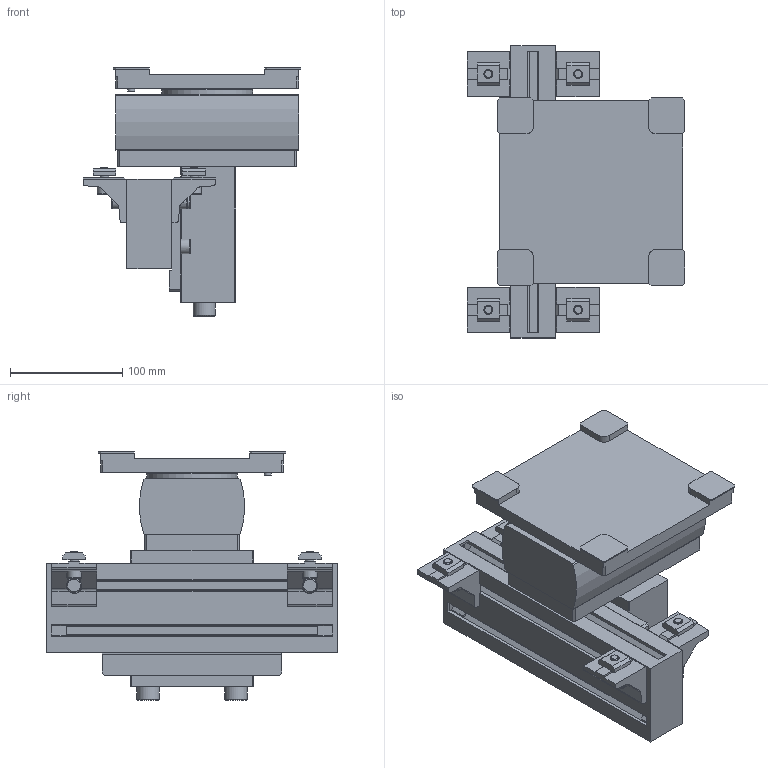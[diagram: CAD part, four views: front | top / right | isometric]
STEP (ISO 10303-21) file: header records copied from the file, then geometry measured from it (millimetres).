
FILE_DESCRIPTION(/* description */ (''),/* implementation_level */ '2;1');
FILE_NAME(/* name */ 'C:\Marketing\01_Versamove-SPU_STEP-Dateien-Homepage\VersamoveStandard\B240\STEP-Dateien\Hubdreheinheit_HDE-2045_B240.stp',/* time_stamp */ '2016-12-15T11:02:30+01:00',/* author */ ('herbert.engels'),/* organization */ (''),/* preprocessor_version */ 'ST-DEVELOPER v15.6',/* originating_system */ 'Autodesk Inventor 2015',/* authorisation */ '');
FILE_SCHEMA (('CONFIG_CONTROL_DESIGN'));
Length unit declared in the file: millimetre
Products named in the file (1): Hubdreheinheit_HDE-2045_B240
Bounding box: 193.8 x 260 x 221 mm (x, y, z)
Volume: 2633981 mm3; surface area: 364727.7 mm2
Topology: 1 solids, 1 shells, 657 faces, 1887 edges, 1229 vertices
Faces by surface type: plane 519, cylinder 108, cone 18, torus 12
Full cylindrical faces by diameter (mm): 4.917 x2, 6 x1, 8 x27, 13 x12, 14 x8, 20 x2, 54.2 x1, 81 x1
Entity records: 21382 total; most frequent: CARTESIAN_POINT 3724, ORIENTED_EDGE 3528, DIRECTION 3320, EDGE_CURVE 1764, LINE 1492, VECTOR 1492, VERTEX_POINT 1190, AXIS2_PLACEMENT_3D 914
